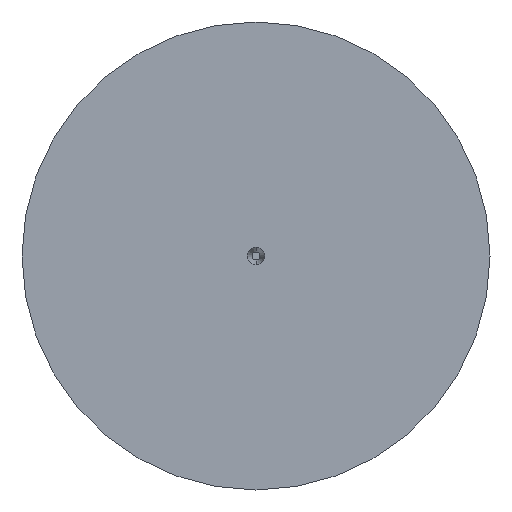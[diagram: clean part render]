
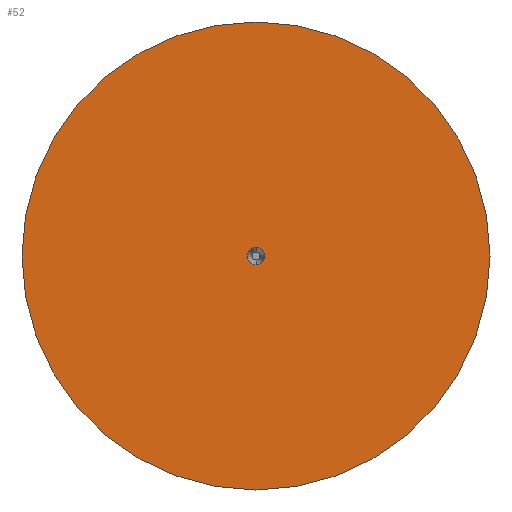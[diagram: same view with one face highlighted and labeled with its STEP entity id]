
A CAD part, left-side view. The second image highlights one B-rep face of the part: STEP entity #52.
In plain terms, the highlighted planar face has unit normal (-1, 0, 0).
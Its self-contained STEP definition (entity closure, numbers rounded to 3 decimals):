
#4 = DIRECTION ( 'NONE',  ( 1., 0., 0. ) ) ;
#5 = ORIENTED_EDGE ( 'NONE', *, *, #276, .F. ) ;
#17 = VERTEX_POINT ( 'NONE', #191 ) ;
#19 = CARTESIAN_POINT ( 'NONE',  ( 0., 0., 0. ) ) ;
#46 = ORIENTED_EDGE ( 'NONE', *, *, #61, .T. ) ;
#52 = ADVANCED_FACE ( 'NONE', ( #125, #248 ), #283, .F. ) ;
#53 = CARTESIAN_POINT ( 'NONE',  ( 0., 0., 0. ) ) ;
#57 = DIRECTION ( 'NONE',  ( 0., 0., -1. ) ) ;
#61 = EDGE_CURVE ( 'NONE', #17, #201, #190, .T. ) ;
#69 = EDGE_CURVE ( 'NONE', #209, #230, #71, .T. ) ;
#71 = CIRCLE ( 'NONE', #108, 0.15 ) ;
#79 = CARTESIAN_POINT ( 'NONE',  ( 0., 0., 0. ) ) ;
#83 = AXIS2_PLACEMENT_3D ( 'NONE', #79, #144, #102 ) ;
#88 = CARTESIAN_POINT ( 'NONE',  ( 0., 0., 4.1 ) ) ;
#102 = DIRECTION ( 'NONE',  ( 0., 0., 1. ) ) ;
#104 = DIRECTION ( 'NONE',  ( 0., 0., 1. ) ) ;
#105 = AXIS2_PLACEMENT_3D ( 'NONE', #174, #107, #166 ) ;
#107 = DIRECTION ( 'NONE',  ( -1., 0., 0. ) ) ;
#108 = AXIS2_PLACEMENT_3D ( 'NONE', #19, #268, #109 ) ;
#109 = DIRECTION ( 'NONE',  ( 0., 0., 1. ) ) ;
#112 = CARTESIAN_POINT ( 'NONE',  ( 0., 0., -0.15 ) ) ;
#125 = FACE_BOUND ( 'NONE', #168, .T. ) ;
#144 = DIRECTION ( 'NONE',  ( -1., 0., 0. ) ) ;
#152 = ORIENTED_EDGE ( 'NONE', *, *, #219, .T. ) ;
#158 = CARTESIAN_POINT ( 'NONE',  ( 0., 0., 0.15 ) ) ;
#166 = DIRECTION ( 'NONE',  ( 0., 0., 1. ) ) ;
#168 = EDGE_LOOP ( 'NONE', ( #5, #173 ) ) ;
#169 = AXIS2_PLACEMENT_3D ( 'NONE', #175, #4, #57 ) ;
#173 = ORIENTED_EDGE ( 'NONE', *, *, #69, .F. ) ;
#174 = CARTESIAN_POINT ( 'NONE',  ( 0., 0., 0. ) ) ;
#175 = CARTESIAN_POINT ( 'NONE',  ( 0., 0., 0. ) ) ;
#190 = CIRCLE ( 'NONE', #297, 4.1 ) ;
#191 = CARTESIAN_POINT ( 'NONE',  ( 0., 0., -4.1 ) ) ;
#201 = VERTEX_POINT ( 'NONE', #88 ) ;
#207 = EDGE_LOOP ( 'NONE', ( #152, #46 ) ) ;
#209 = VERTEX_POINT ( 'NONE', #112 ) ;
#211 = CIRCLE ( 'NONE', #83, 0.15 ) ;
#219 = EDGE_CURVE ( 'NONE', #201, #17, #220, .T. ) ;
#220 = CIRCLE ( 'NONE', #105, 4.1 ) ;
#230 = VERTEX_POINT ( 'NONE', #158 ) ;
#246 = DIRECTION ( 'NONE',  ( -1., 0., 0. ) ) ;
#248 = FACE_OUTER_BOUND ( 'NONE', #207, .T. ) ;
#268 = DIRECTION ( 'NONE',  ( -1., 0., 0. ) ) ;
#276 = EDGE_CURVE ( 'NONE', #230, #209, #211, .T. ) ;
#283 = PLANE ( 'NONE',  #169 ) ;
#297 = AXIS2_PLACEMENT_3D ( 'NONE', #53, #246, #104 ) ;
